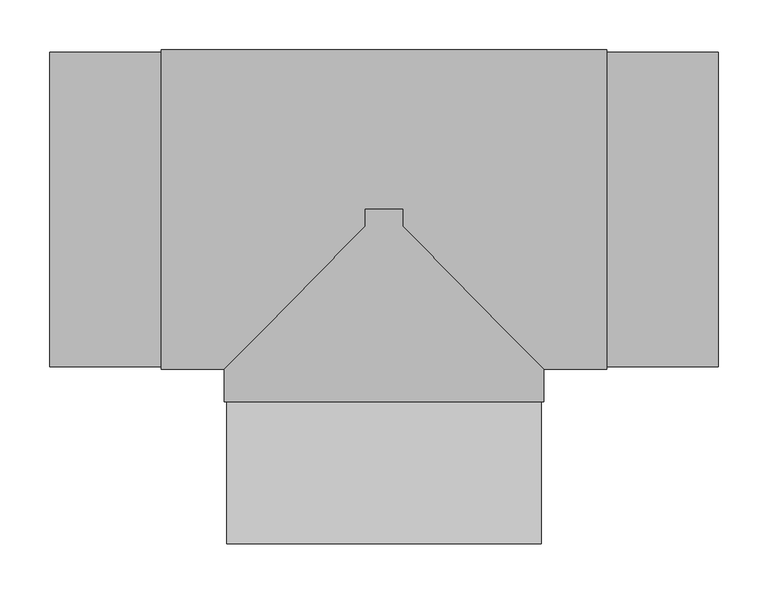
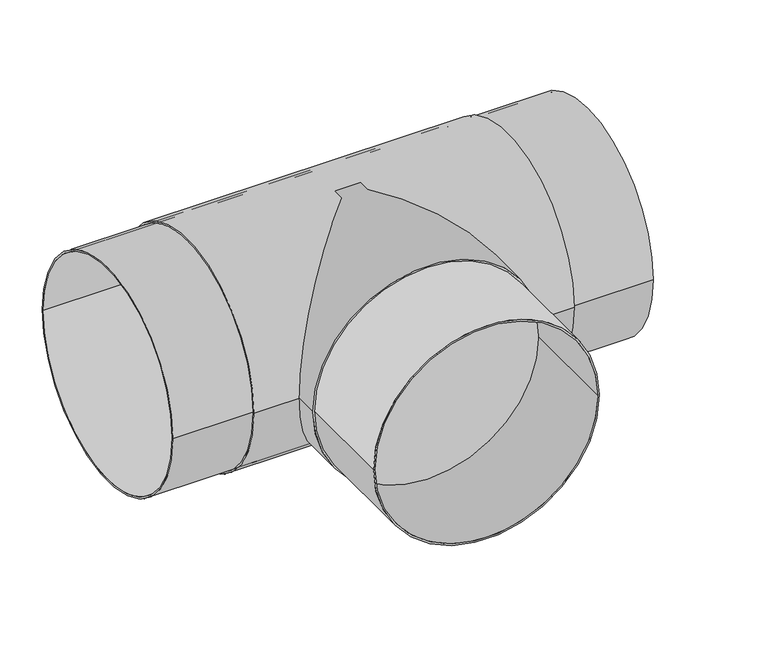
"""IFC4 building model written with IfcOpenShell, lengths in millimetres: pipe fitting geometry, EGB_VASEN_ PPR_Te a tope WXRB300_Te reducida a tope WXRB310 : Te a tope."""

from ifc_helpers import new_model, si_unit, point, frame, origin, origin_2d, place, context, project, spatial, circle_curve, trimmed, segment, composite_curve, outline, extrude, source, transform, mapped, element, save


def pipe_fitting_b56493a3(model_context):
    return source(origin(), model_context, "Body", "SweptSolid", [
        extrude(outline(composite_curve([segment(trimmed(circle_curve(origin_2d(), 157.5), [point((0.0, 157.5))], [point((0.0, -157.5))], False, "CARTESIAN"), True, "CONTINUOUS"), segment(trimmed(circle_curve(origin_2d(), 157.5), [point((0.0, -157.5))], [point((0.0, 157.5))], False, "CARTESIAN"), True, "CONTINUOUS")], self_intersect=False), holes=[composite_curve([segment(trimmed(circle_curve(origin_2d(), 155.0), [point((0.0, 155.0))], [point((0.0, -155.0))], True, "CARTESIAN"), True, "CONTINUOUS"), segment(trimmed(circle_curve(origin_2d(), 155.0), [point((0.0, -155.0))], [point((0.0, 155.0))], True, "CARTESIAN"), True, "CONTINUOUS")], self_intersect=False)]), frame((0.0, -335.0, 0.0), z_axis=(0.0, 1.0, 0.0), x_axis=(0.0, 0.0, 1.0)), (0.0, 0.0, 1.0), 142.0),
        extrude(outline(composite_curve([segment(trimmed(circle_curve(origin_2d(), 160.0), [point((0.0, 160.0))], [point((0.0, -160.0))], False, "CARTESIAN"), True, "CONTINUOUS"), segment(trimmed(circle_curve(origin_2d(), 160.0), [point((0.0, -160.0))], [point((0.0, 160.0))], False, "CARTESIAN"), True, "CONTINUOUS")], self_intersect=False)), frame((0.0, -193.0, 0.0), z_axis=(0.0, 1.0, 0.0), x_axis=(0.0, 0.0, 1.0)), (0.0, 0.0, 1.0), 193.0),
        extrude(outline(composite_curve([segment(trimmed(circle_curve(origin_2d(), 160.0), [point((-160.0, 0.0))], [point((160.0, 0.0))], False, "CARTESIAN"), True, "CONTINUOUS"), segment(trimmed(circle_curve(origin_2d(), 160.0), [point((160.0, 0.0))], [point((-160.0, 0.0))], False, "CARTESIAN"), True, "CONTINUOUS")], self_intersect=False), holes=[composite_curve([segment(trimmed(circle_curve(origin_2d(), 157.5), [point((-157.5, 0.0))], [point((157.5, 0.0))], True, "CARTESIAN"), True, "CONTINUOUS"), segment(trimmed(circle_curve(origin_2d(), 157.5), [point((157.5, 0.0))], [point((-157.5, 0.0))], True, "CARTESIAN"), True, "CONTINUOUS")], self_intersect=False)]), frame((-223.3333333, 0.0, 0.0), z_axis=(1.0, 0.0, 0.0), x_axis=(0.0, 1.0, 0.0)), (0.0, 0.0, 1.0), 446.6666667),
        extrude(outline(composite_curve([segment(trimmed(circle_curve(origin_2d(), 157.5), [point((-157.5, 0.0))], [point((157.5, 0.0))], False, "CARTESIAN"), True, "CONTINUOUS"), segment(trimmed(circle_curve(origin_2d(), 157.5), [point((157.5, 0.0))], [point((-157.5, 0.0))], False, "CARTESIAN"), True, "CONTINUOUS")], self_intersect=False), holes=[composite_curve([segment(trimmed(circle_curve(origin_2d(), 155.0), [point((-155.0, 0.0))], [point((155.0, 0.0))], True, "CARTESIAN"), True, "CONTINUOUS"), segment(trimmed(circle_curve(origin_2d(), 155.0), [point((155.0, 0.0))], [point((-155.0, 0.0))], True, "CARTESIAN"), True, "CONTINUOUS")], self_intersect=False)]), frame((-335.0, 0.0, 0.0), z_axis=(1.0, 0.0, 0.0), x_axis=(0.0, 1.0, 0.0)), (0.0, 0.0, 1.0), 670.0),
    ])


if __name__ == "__main__":
    model = new_model("IFC4")
    model_context = context("Model", 3, world=origin())
    ifc_project = project(units=[si_unit("LENGTHUNIT", "METRE", prefix="MILLI")], contexts=[model_context])
    site = spatial("IfcSite", under=ifc_project)
    building = spatial("IfcBuilding", under=site)
    placement = place(None, origin())
    pipe_fitting_shape = pipe_fitting_b56493a3(model_context)
    element("IfcPipeFitting", 1, ObjectType="EGB_VASEN_ PPR_Te a tope WXRB300_Te reducida a tope WXRB310 : Te a tope", at=placement, inside=building, context=model_context, shape_type="MappedRepresentation", body=[
        mapped(pipe_fitting_shape, transform((0.0, 0.0, 0.0), x_axis=(1.0, 0.0, 0.0), y_axis=(0.0, 1.0, 0.0), z_axis=(0.0, 0.0, 1.0))),
    ])
    save(model, "model.ifc")
